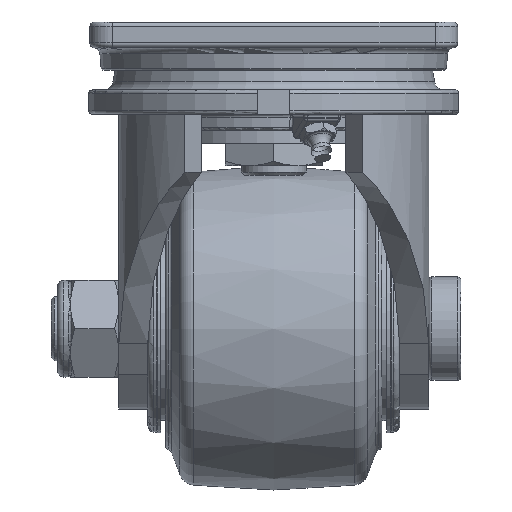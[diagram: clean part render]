
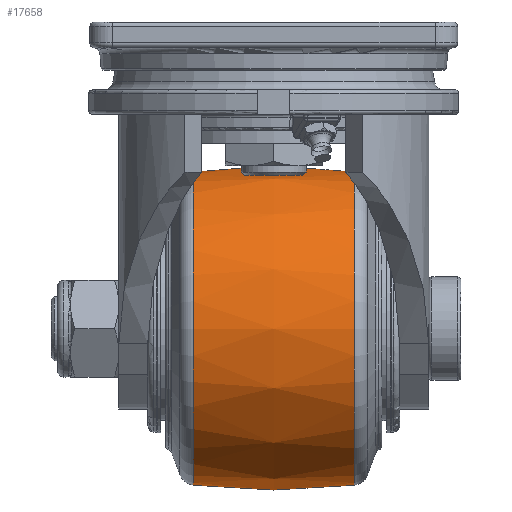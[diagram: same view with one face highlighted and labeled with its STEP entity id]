
A CAD part, left-side view. The second image highlights one B-rep face of the part: STEP entity #17658.
In plain terms, the highlighted free-form (B-spline) face has degree [2, 2] with [3, 9] control points.
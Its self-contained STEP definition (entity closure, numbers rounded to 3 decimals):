
#96=(
BOUNDED_SURFACE()
B_SPLINE_SURFACE(2,2,((#24282,#24283,#24284,#24285,#24286,#24287,#24288,
#24289,#24290),(#24291,#24292,#24293,#24294,#24295,#24296,#24297,#24298,
#24299),(#24300,#24301,#24302,#24303,#24304,#24305,#24306,#24307,#24308)),
 .UNSPECIFIED.,.F.,.T.,.F.)
B_SPLINE_SURFACE_WITH_KNOTS((3,3),(3,2,2,2,3),(-0.119,0.119),
(-3.142,-1.571,0.,1.571,3.142),
 .UNSPECIFIED.)
GEOMETRIC_REPRESENTATION_ITEM()
RATIONAL_B_SPLINE_SURFACE(((1.,0.707,1.,0.707,1.,
0.707,1.,0.707,1.),(0.993,0.702,
0.993,0.702,0.993,0.702,
0.993,0.702,0.993),(1.,0.707,
1.,0.707,1.,0.707,1.,0.707,1.)))
REPRESENTATION_ITEM('')
SURFACE()
);
#4712=FACE_OUTER_BOUND('',#5780,.T.);
#5780=EDGE_LOOP('',(#12305,#12306,#12307,#12308,#12309,#12310));
#6961=CIRCLE('',#18820,48.509);
#6962=CIRCLE('',#18821,48.509);
#6963=CIRCLE('',#18822,210.);
#6964=CIRCLE('',#18823,48.509);
#6965=CIRCLE('',#18824,48.509);
#7569=VERTEX_POINT('',#24277);
#7570=VERTEX_POINT('',#24279);
#7571=VERTEX_POINT('',#24309);
#7572=VERTEX_POINT('',#24311);
#9407=EDGE_CURVE('',#7569,#7570,#6961,.T.);
#9408=EDGE_CURVE('',#7570,#7569,#6962,.T.);
#9409=EDGE_CURVE('',#7569,#7571,#6963,.T.);
#9410=EDGE_CURVE('',#7571,#7572,#6964,.T.);
#9411=EDGE_CURVE('',#7572,#7571,#6965,.T.);
#12305=ORIENTED_EDGE('',*,*,#9408,.F.);
#12306=ORIENTED_EDGE('',*,*,#9407,.F.);
#12307=ORIENTED_EDGE('',*,*,#9409,.T.);
#12308=ORIENTED_EDGE('',*,*,#9410,.T.);
#12309=ORIENTED_EDGE('',*,*,#9411,.T.);
#12310=ORIENTED_EDGE('',*,*,#9409,.F.);
#17658=ADVANCED_FACE('',(#4712),#96,.F.);
#18820=AXIS2_PLACEMENT_3D('',#24280,#20259,#20260);
#18821=AXIS2_PLACEMENT_3D('',#24281,#20261,#20262);
#18822=AXIS2_PLACEMENT_3D('',#24310,#20263,#20264);
#18823=AXIS2_PLACEMENT_3D('',#24312,#20265,#20266);
#18824=AXIS2_PLACEMENT_3D('',#24313,#20267,#20268);
#20259=DIRECTION('center_axis',(0.,1.,0.));
#20260=DIRECTION('ref_axis',(-1.,0.,0.));
#20261=DIRECTION('center_axis',(0.,1.,0.));
#20262=DIRECTION('ref_axis',(-1.,0.,0.));
#20263=DIRECTION('center_axis',(1.,0.,0.));
#20264=DIRECTION('ref_axis',(0.,0.,
1.));
#20265=DIRECTION('center_axis',(0.,1.,0.));
#20266=DIRECTION('ref_axis',(-1.,0.,0.));
#20267=DIRECTION('center_axis',(0.,1.,0.));
#20268=DIRECTION('ref_axis',(-1.,0.,0.));
#24277=CARTESIAN_POINT('',(37.134,24.976,-16.491));
#24279=CARTESIAN_POINT('',(-11.375,24.976,-65.));
#24280=CARTESIAN_POINT('Origin',(37.134,24.976,-65.));
#24281=CARTESIAN_POINT('Origin',(37.134,24.976,-65.));
#24282=CARTESIAN_POINT('Ctrl Pts',(37.134,24.976,-16.491));
#24283=CARTESIAN_POINT('Ctrl Pts',(-11.375,24.976,-16.491));
#24284=CARTESIAN_POINT('Ctrl Pts',(-11.375,24.976,-65.));
#24285=CARTESIAN_POINT('Ctrl Pts',(-11.375,24.976,-113.509));
#24286=CARTESIAN_POINT('Ctrl Pts',(37.134,24.976,-113.509));
#24287=CARTESIAN_POINT('Ctrl Pts',(85.644,24.976,-113.509));
#24288=CARTESIAN_POINT('Ctrl Pts',(85.644,24.976,-65.));
#24289=CARTESIAN_POINT('Ctrl Pts',(85.644,24.976,-16.491));
#24290=CARTESIAN_POINT('Ctrl Pts',(37.134,24.976,-16.491));
#24291=CARTESIAN_POINT('Ctrl Pts',(37.134,0.,
-13.499));
#24292=CARTESIAN_POINT('Ctrl Pts',(-14.367,0.,
-13.499));
#24293=CARTESIAN_POINT('Ctrl Pts',(-14.367,0.,
-65.));
#24294=CARTESIAN_POINT('Ctrl Pts',(-14.367,0.,
-116.501));
#24295=CARTESIAN_POINT('Ctrl Pts',(37.134,0.,
-116.501));
#24296=CARTESIAN_POINT('Ctrl Pts',(88.635,0.,
-116.501));
#24297=CARTESIAN_POINT('Ctrl Pts',(88.635,0.,
-65.));
#24298=CARTESIAN_POINT('Ctrl Pts',(88.635,0.,
-13.499));
#24299=CARTESIAN_POINT('Ctrl Pts',(37.134,0.,
-13.499));
#24300=CARTESIAN_POINT('Ctrl Pts',(37.134,-24.976,-16.491));
#24301=CARTESIAN_POINT('Ctrl Pts',(-11.375,-24.976,
-16.491));
#24302=CARTESIAN_POINT('Ctrl Pts',(-11.375,-24.976,-65.));
#24303=CARTESIAN_POINT('Ctrl Pts',(-11.375,-24.976,
-113.509));
#24304=CARTESIAN_POINT('Ctrl Pts',(37.134,-24.976,-113.509));
#24305=CARTESIAN_POINT('Ctrl Pts',(85.644,-24.976,-113.509));
#24306=CARTESIAN_POINT('Ctrl Pts',(85.644,-24.976,-65.));
#24307=CARTESIAN_POINT('Ctrl Pts',(85.644,-24.976,-16.491));
#24308=CARTESIAN_POINT('Ctrl Pts',(37.134,-24.976,-16.491));
#24309=CARTESIAN_POINT('',(37.134,-24.976,-16.491));
#24310=CARTESIAN_POINT('Origin',(37.134,0.,
-225.));
#24311=CARTESIAN_POINT('',(-11.375,-24.976,-65.));
#24312=CARTESIAN_POINT('Origin',(37.134,-24.976,-65.));
#24313=CARTESIAN_POINT('Origin',(37.134,-24.976,-65.));
